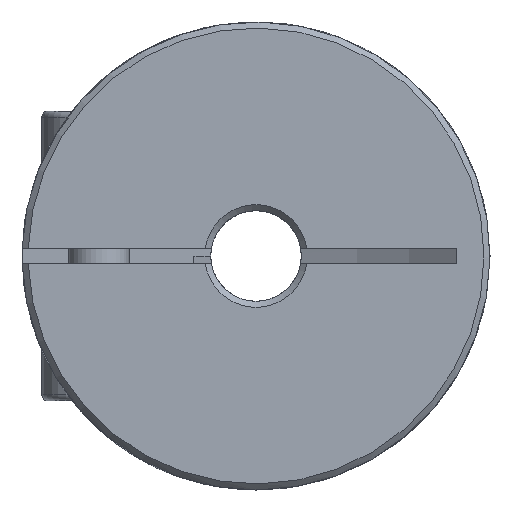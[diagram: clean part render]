
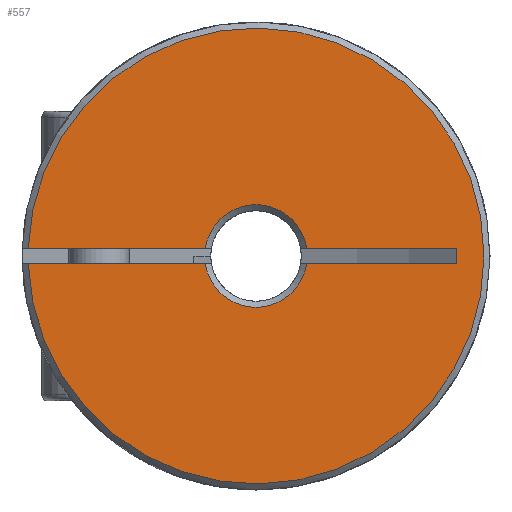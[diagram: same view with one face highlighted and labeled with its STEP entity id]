
A CAD part, left-side view. The second image highlights one B-rep face of the part: STEP entity #557.
In plain terms, the highlighted planar face has unit normal (-1, 0, 0).
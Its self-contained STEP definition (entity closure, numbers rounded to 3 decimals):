
#557 = ADVANCED_FACE( 'NONE', ( #1217 ), #1218, .F. );
#1217 = FACE_OUTER_BOUND( '', #2003, .T. );
#1218 = PLANE( '', #2004 );
#2003 = EDGE_LOOP( '', ( #3236, #3237, #3238, #3239, #3240, #3241, #3242, #3243 ) );
#2004 = AXIS2_PLACEMENT_3D( '', #3244, #3245, #3246 );
#3236 = ORIENTED_EDGE( '', *, *, #4256, .T. );
#3237 = ORIENTED_EDGE( '', *, *, #4094, .T. );
#3238 = ORIENTED_EDGE( '', *, *, #4044, .T. );
#3239 = ORIENTED_EDGE( '', *, *, #4365, .T. );
#3240 = ORIENTED_EDGE( '', *, *, #4329, .F. );
#3241 = ORIENTED_EDGE( '', *, *, #4366, .T. );
#3242 = ORIENTED_EDGE( '', *, *, #4367, .F. );
#3243 = ORIENTED_EDGE( '', *, *, #4368, .T. );
#3244 = CARTESIAN_POINT( '', ( 0., 1.5, 0. ) );
#3245 = DIRECTION( '', ( 1., 0., 0. ) );
#3246 = DIRECTION( '', ( 0., 1., 0. ) );
#4044 = EDGE_CURVE( 'NONE', #4697, #4698, #4699, .T. );
#4094 = EDGE_CURVE( 'NONE', #4783, #4697, #4784, .T. );
#4256 = EDGE_CURVE( 'NONE', #5047, #4783, #5048, .T. );
#4329 = EDGE_CURVE( 'NONE', #5145, #5147, #5148, .F. );
#4365 = EDGE_CURVE( 'NONE', #4698, #5147, #5192, .F. );
#4366 = EDGE_CURVE( 'NONE', #5145, #5193, #5194, .T. );
#4367 = EDGE_CURVE( 'NONE', #5195, #5193, #5196, .F. );
#4368 = EDGE_CURVE( 'NONE', #5195, #5047, #5197, .T. );
#4697 = VERTEX_POINT( 'NONE', #5569 );
#4698 = VERTEX_POINT( 'NONE', #5570 );
#4699 = LINE( '', #5571, #5572 );
#4783 = VERTEX_POINT( 'NONE', #5698 );
#4784 = CIRCLE( '', #5699, 1.7 );
#5047 = VERTEX_POINT( 'NONE', #6140 );
#5048 = LINE( '', #6141, #6142 );
#5145 = VERTEX_POINT( 'NONE', #6293 );
#5147 = VERTEX_POINT( 'NONE', #6298 );
#5148 = LINE( '', #6299, #6300 );
#5192 = CIRCLE( '', #6358, 7.55 );
#5193 = VERTEX_POINT( 'NONE', #6359 );
#5194 = CIRCLE( '', #6360, 1.7 );
#5195 = VERTEX_POINT( 'NONE', #6361 );
#5196 = LINE( '', #6362, #6363 );
#5197 = LINE( '', #6364, #6365 );
#5569 = CARTESIAN_POINT( '', ( 0., -1.682, 0.25 ) );
#5570 = CARTESIAN_POINT( '', ( 0., -7.546, 0.25 ) );
#5571 = CARTESIAN_POINT( '', ( 0., 1.5, 0.25 ) );
#5572 = VECTOR( '', #6744, 1000. );
#5698 = CARTESIAN_POINT( '', ( 0., 1.682, 0.25 ) );
#5699 = AXIS2_PLACEMENT_3D( '', #6808, #6809, #6810 );
#6140 = CARTESIAN_POINT( '', ( 0., 6.624, 0.25 ) );
#6141 = CARTESIAN_POINT( '', ( 0., 1.5, 0.25 ) );
#6142 = VECTOR( '', #7118, 1000. );
#6293 = CARTESIAN_POINT( '', ( 0., -1.682, -0.25 ) );
#6298 = CARTESIAN_POINT( '', ( 0., -7.546, -0.25 ) );
#6299 = CARTESIAN_POINT( '', ( 0., -4.5, -0.25 ) );
#6300 = VECTOR( '', #7222, 1000. );
#6358 = AXIS2_PLACEMENT_3D( '', #7261, #7262, #7263 );
#6359 = CARTESIAN_POINT( '', ( 0., 1.682, -0.25 ) );
#6360 = AXIS2_PLACEMENT_3D( '', #7264, #7265, #7266 );
#6361 = CARTESIAN_POINT( '', ( 0., 6.624, -0.25 ) );
#6362 = CARTESIAN_POINT( '', ( 0., -4.5, -0.25 ) );
#6363 = VECTOR( '', #7267, 1000. );
#6364 = CARTESIAN_POINT( '', ( 0., 6.624, -0.25 ) );
#6365 = VECTOR( '', #7268, 1000. );
#6744 = DIRECTION( '', ( 0., -1., 0. ) );
#6808 = CARTESIAN_POINT( '', ( 0., 0., 0. ) );
#6809 = DIRECTION( '', ( 1., 0., 0. ) );
#6810 = DIRECTION( '', ( 0., 0., -1. ) );
#7118 = DIRECTION( '', ( 0., -1., 0. ) );
#7222 = DIRECTION( '', ( 0., 1., 0. ) );
#7261 = CARTESIAN_POINT( '', ( 0., 0., 0. ) );
#7262 = DIRECTION( '', ( 1., 0., 0. ) );
#7263 = DIRECTION( '', ( 0., 0., -1. ) );
#7264 = CARTESIAN_POINT( '', ( 0., 0., 0. ) );
#7265 = DIRECTION( '', ( 1., 0., 0. ) );
#7266 = DIRECTION( '', ( 0., 0., -1. ) );
#7267 = DIRECTION( '', ( 0., 1., 0. ) );
#7268 = DIRECTION( '', ( 0., 0., 1. ) );
